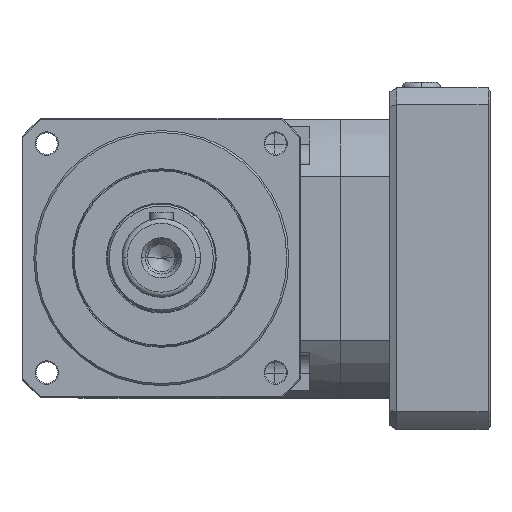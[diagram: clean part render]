
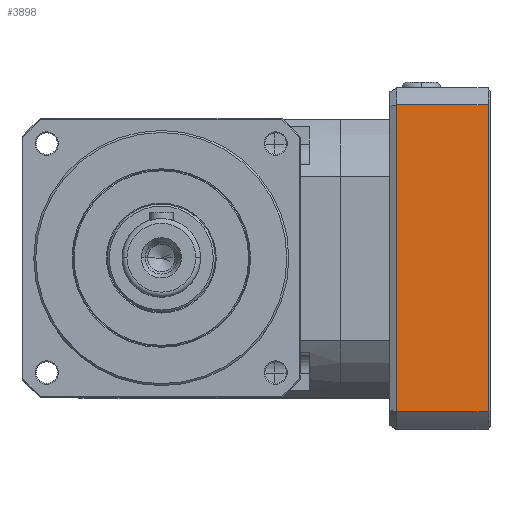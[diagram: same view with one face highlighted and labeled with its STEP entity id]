
A CAD part, top view. The second image highlights one B-rep face of the part: STEP entity #3898.
In plain terms, the highlighted planar face has unit normal (0, 0, 1).
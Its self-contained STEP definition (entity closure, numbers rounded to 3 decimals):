
#112 = EDGE_CURVE ( 'NONE', #1644, #1087, #7656, .T. ) ;
#865 = DIRECTION ( 'NONE',  ( 1., 0., 0. ) ) ;
#1087 = VERTEX_POINT ( 'NONE', #6292 ) ;
#1306 = VECTOR ( 'NONE', #865, 1000. ) ;
#1536 = ORIENTED_EDGE ( 'NONE', *, *, #6255, .F. ) ;
#1644 = VERTEX_POINT ( 'NONE', #5951 ) ;
#1737 = DIRECTION ( 'NONE',  ( -1., 0., 0. ) ) ;
#1785 = AXIS2_PLACEMENT_3D ( 'NONE', #10049, #2762, #8482 ) ;
#2121 = CARTESIAN_POINT ( 'NONE',  ( 119.964, 78.23, 158. ) ) ;
#2762 = DIRECTION ( 'NONE',  ( 0., 0., -1. ) ) ;
#2825 = ORIENTED_EDGE ( 'NONE', *, *, #7334, .T. ) ;
#2962 = ORIENTED_EDGE ( 'NONE', *, *, #112, .F. ) ;
#3254 = LINE ( 'NONE', #4864, #8281 ) ;
#3898 = ADVANCED_FACE ( 'NONE', ( #10247 ), #5182, .F. ) ;
#3926 = VECTOR ( 'NONE', #1737, 1000. ) ;
#4644 = DIRECTION ( 'NONE',  ( 0., -1., 0. ) ) ;
#4798 = DIRECTION ( 'NONE',  ( 0., 1., 0. ) ) ;
#4864 = CARTESIAN_POINT ( 'NONE',  ( 166.5, 87., 158. ) ) ;
#5182 = PLANE ( 'NONE',  #1785 ) ;
#5865 = CARTESIAN_POINT ( 'NONE',  ( 116.5, 78.23, 158. ) ) ;
#5951 = CARTESIAN_POINT ( 'NONE',  ( 166.5, -78.23, 158. ) ) ;
#6142 = ORIENTED_EDGE ( 'NONE', *, *, #9370, .T. ) ;
#6202 = LINE ( 'NONE', #8693, #6711 ) ;
#6255 = EDGE_CURVE ( 'NONE', #7637, #8011, #7440, .T. ) ;
#6292 = CARTESIAN_POINT ( 'NONE',  ( 119.964, -78.23, 158. ) ) ;
#6711 = VECTOR ( 'NONE', #4644, 1000. ) ;
#6739 = CARTESIAN_POINT ( 'NONE',  ( 116.5, -78.23, 158. ) ) ;
#7149 = CARTESIAN_POINT ( 'NONE',  ( 166.5, 78.23, 158. ) ) ;
#7334 = EDGE_CURVE ( 'NONE', #7637, #1087, #6202, .T. ) ;
#7440 = LINE ( 'NONE', #5865, #1306 ) ;
#7637 = VERTEX_POINT ( 'NONE', #2121 ) ;
#7656 = LINE ( 'NONE', #6739, #3926 ) ;
#8011 = VERTEX_POINT ( 'NONE', #7149 ) ;
#8281 = VECTOR ( 'NONE', #4798, 1000. ) ;
#8482 = DIRECTION ( 'NONE',  ( 0., 1., 0. ) ) ;
#8693 = CARTESIAN_POINT ( 'NONE',  ( 119.964, -78.23, 158. ) ) ;
#9370 = EDGE_CURVE ( 'NONE', #1644, #8011, #3254, .T. ) ;
#10049 = CARTESIAN_POINT ( 'NONE',  ( 167.5, 87., 158. ) ) ;
#10247 = FACE_OUTER_BOUND ( 'NONE', #10466, .T. ) ;
#10466 = EDGE_LOOP ( 'NONE', ( #2962, #6142, #1536, #2825 ) ) ;
